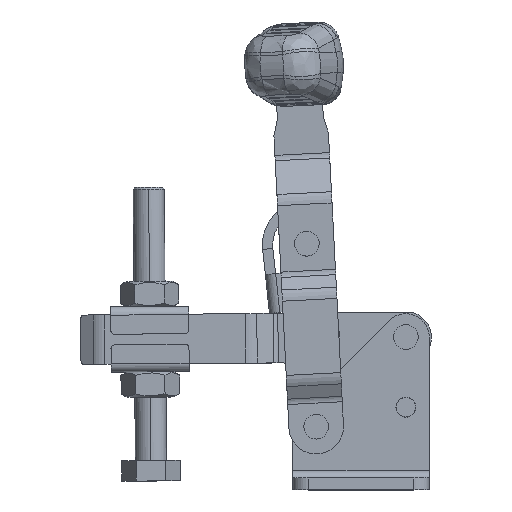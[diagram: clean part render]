
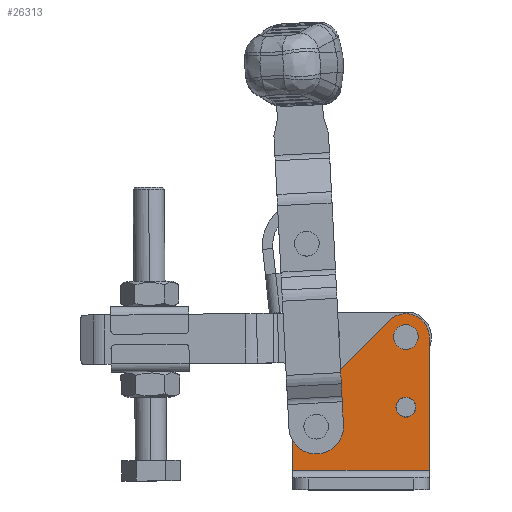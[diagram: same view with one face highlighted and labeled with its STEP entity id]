
A CAD part, top view. The second image highlights one B-rep face of the part: STEP entity #26313.
In plain terms, the highlighted planar face has unit normal (0, 0, 1).
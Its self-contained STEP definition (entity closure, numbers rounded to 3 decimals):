
#26 = DIRECTION ( 'NONE',  ( -1., 0., 0. ) ) ;
#163 = CARTESIAN_POINT ( 'NONE',  ( 6., 16.925, 16.425 ) ) ;
#291 = EDGE_CURVE ( 'NONE', #19387, #25722, #16542, .T. ) ;
#493 = LINE ( 'NONE', #20456, #22916 ) ;
#520 = EDGE_LOOP ( 'NONE', ( #37411, #10123 ) ) ;
#958 = AXIS2_PLACEMENT_3D ( 'NONE', #31888, #14349, #34835 ) ;
#1162 = CARTESIAN_POINT ( 'NONE',  ( 29., 37.525, 16.425 ) ) ;
#1423 = EDGE_CURVE ( 'NONE', #19967, #20578, #493, .T. ) ;
#2158 = EDGE_CURVE ( 'NONE', #33605, #4039, #29723, .T. ) ;
#2857 = AXIS2_PLACEMENT_3D ( 'NONE', #163, #20596, #3115 ) ;
#2858 = DIRECTION ( 'NONE',  ( 0., 0., 1. ) ) ;
#2863 = EDGE_LOOP ( 'NONE', ( #23264, #19841 ) ) ;
#3115 = DIRECTION ( 'NONE',  ( 0., -1., 0. ) ) ;
#3159 = PLANE ( 'NONE',  #4642 ) ;
#3209 = VERTEX_POINT ( 'NONE', #21323 ) ;
#3687 = CIRCLE ( 'NONE', #30517, 2.55 ) ;
#4039 = VERTEX_POINT ( 'NONE', #9196 ) ;
#4536 = AXIS2_PLACEMENT_3D ( 'NONE', #10311, #30780, #13262 ) ;
#4642 = AXIS2_PLACEMENT_3D ( 'NONE', #26538, #29469, #11946 ) ;
#4880 = ORIENTED_EDGE ( 'NONE', *, *, #6359, .F. ) ;
#5681 = EDGE_CURVE ( 'NONE', #4039, #20578, #21360, .T. ) ;
#5820 = VECTOR ( 'NONE', #10050, 1000. ) ;
#6359 = EDGE_CURVE ( 'NONE', #23827, #16759, #8505, .T. ) ;
#7026 = EDGE_CURVE ( 'NONE', #11297, #9635, #16249, .T. ) ;
#7887 = CARTESIAN_POINT ( 'NONE',  ( 35., 5.749, 16.425 ) ) ;
#8458 = DIRECTION ( 'NONE',  ( -0.707, -0.707, 0. ) ) ;
#8505 = CIRCLE ( 'NONE', #4536, 2.55 ) ;
#8846 = EDGE_CURVE ( 'NONE', #25722, #19387, #36287, .T. ) ;
#9196 = CARTESIAN_POINT ( 'NONE',  ( 0., 19.425, 16.425 ) ) ;
#9635 = VERTEX_POINT ( 'NONE', #23642 ) ;
#9653 = DIRECTION ( 'NONE',  ( 0., 0., 1. ) ) ;
#9932 = DIRECTION ( 'NONE',  ( 0., 0., 1. ) ) ;
#10050 = DIRECTION ( 'NONE',  ( 0., -1., 0. ) ) ;
#10123 = ORIENTED_EDGE ( 'NONE', *, *, #7026, .F. ) ;
#10311 = CARTESIAN_POINT ( 'NONE',  ( 29., 21.925, 16.425 ) ) ;
#11297 = VERTEX_POINT ( 'NONE', #29350 ) ;
#11946 = DIRECTION ( 'NONE',  ( 0., -1., 0. ) ) ;
#13060 = CIRCLE ( 'NONE', #14250, 2.4 ) ;
#13147 = EDGE_LOOP ( 'NONE', ( #14109, #19266, #23021, #13223, #14416 ) ) ;
#13223 = ORIENTED_EDGE ( 'NONE', *, *, #2158, .T. ) ;
#13262 = DIRECTION ( 'NONE',  ( 0., -1., 0. ) ) ;
#13841 = CARTESIAN_POINT ( 'NONE',  ( 29., 24.475, 16.425 ) ) ;
#14109 = ORIENTED_EDGE ( 'NONE', *, *, #1423, .F. ) ;
#14250 = AXIS2_PLACEMENT_3D ( 'NONE', #20358, #2858, #23335 ) ;
#14349 = DIRECTION ( 'NONE',  ( 0., 0., 1. ) ) ;
#14416 = ORIENTED_EDGE ( 'NONE', *, *, #5681, .T. ) ;
#14456 = FACE_BOUND ( 'NONE', #21471, .T. ) ;
#15086 = VECTOR ( 'NONE', #8458, 1000. ) ;
#15143 = CARTESIAN_POINT ( 'NONE',  ( 29., 21.925, 16.425 ) ) ;
#16249 = CIRCLE ( 'NONE', #2857, 2.4 ) ;
#16542 = CIRCLE ( 'NONE', #29764, 2.4 ) ;
#16759 = VERTEX_POINT ( 'NONE', #13841 ) ;
#17748 = EDGE_CURVE ( 'NONE', #3209, #33605, #23486, .T. ) ;
#18048 = DIRECTION ( 'NONE',  ( 0., -1., 0. ) ) ;
#19266 = ORIENTED_EDGE ( 'NONE', *, *, #24512, .T. ) ;
#19387 = VERTEX_POINT ( 'NONE', #1162 ) ;
#19841 = ORIENTED_EDGE ( 'NONE', *, *, #8846, .F. ) ;
#19967 = VERTEX_POINT ( 'NONE', #7887 ) ;
#20358 = CARTESIAN_POINT ( 'NONE',  ( 6., 16.925, 16.425 ) ) ;
#20385 = CARTESIAN_POINT ( 'NONE',  ( 35., -12.075, 16.425 ) ) ;
#20456 = CARTESIAN_POINT ( 'NONE',  ( 29., 5.749, 16.425 ) ) ;
#20578 = VERTEX_POINT ( 'NONE', #26634 ) ;
#20596 = DIRECTION ( 'NONE',  ( 0., 0., 1. ) ) ;
#20629 = AXIS2_PLACEMENT_3D ( 'NONE', #27441, #9932, #30382 ) ;
#21323 = CARTESIAN_POINT ( 'NONE',  ( 35., 39.925, 16.425 ) ) ;
#21360 = LINE ( 'NONE', #21674, #5820 ) ;
#21471 = EDGE_LOOP ( 'NONE', ( #4880, #30461 ) ) ;
#21674 = CARTESIAN_POINT ( 'NONE',  ( 0., -12.075, 16.425 ) ) ;
#22642 = EDGE_CURVE ( 'NONE', #16759, #23827, #3687, .T. ) ;
#22669 = CARTESIAN_POINT ( 'NONE',  ( 29., 19.375, 16.425 ) ) ;
#22820 = LINE ( 'NONE', #20385, #37462 ) ;
#22916 = VECTOR ( 'NONE', #26, 1000. ) ;
#23021 = ORIENTED_EDGE ( 'NONE', *, *, #17748, .T. ) ;
#23170 = FACE_BOUND ( 'NONE', #520, .T. ) ;
#23264 = ORIENTED_EDGE ( 'NONE', *, *, #291, .F. ) ;
#23335 = DIRECTION ( 'NONE',  ( 0., -1., 0. ) ) ;
#23359 = DIRECTION ( 'NONE',  ( 0., 1., 0. ) ) ;
#23486 = CIRCLE ( 'NONE', #20629, 6. ) ;
#23642 = CARTESIAN_POINT ( 'NONE',  ( 6., 14.525, 16.425 ) ) ;
#23827 = VERTEX_POINT ( 'NONE', #22669 ) ;
#24512 = EDGE_CURVE ( 'NONE', #19967, #3209, #22820, .T. ) ;
#25722 = VERTEX_POINT ( 'NONE', #25838 ) ;
#25838 = CARTESIAN_POINT ( 'NONE',  ( 29., 42.325, 16.425 ) ) ;
#26313 = ADVANCED_FACE ( 'NONE', ( #31861, #30007, #23170, #14456 ), #3159, .T. ) ;
#26538 = CARTESIAN_POINT ( 'NONE',  ( 29., 39.925, 16.425 ) ) ;
#26634 = CARTESIAN_POINT ( 'NONE',  ( 0., 5.749, 16.425 ) ) ;
#26708 = EDGE_CURVE ( 'NONE', #9635, #11297, #13060, .T. ) ;
#27151 = CARTESIAN_POINT ( 'NONE',  ( 29., 39.925, 16.425 ) ) ;
#27441 = CARTESIAN_POINT ( 'NONE',  ( 29., 39.925, 16.425 ) ) ;
#29199 = CARTESIAN_POINT ( 'NONE',  ( 24.759, 44.169, 16.425 ) ) ;
#29350 = CARTESIAN_POINT ( 'NONE',  ( 6., 19.325, 16.425 ) ) ;
#29469 = DIRECTION ( 'NONE',  ( 0., 0., 1. ) ) ;
#29723 = LINE ( 'NONE', #37913, #15086 ) ;
#29764 = AXIS2_PLACEMENT_3D ( 'NONE', #27151, #9653, #30110 ) ;
#30007 = FACE_BOUND ( 'NONE', #2863, .T. ) ;
#30110 = DIRECTION ( 'NONE',  ( 0., -1., 0. ) ) ;
#30382 = DIRECTION ( 'NONE',  ( 0., -1., 0. ) ) ;
#30461 = ORIENTED_EDGE ( 'NONE', *, *, #22642, .F. ) ;
#30517 = AXIS2_PLACEMENT_3D ( 'NONE', #15143, #35623, #18048 ) ;
#30780 = DIRECTION ( 'NONE',  ( 0., 0., 1. ) ) ;
#31861 = FACE_OUTER_BOUND ( 'NONE', #13147, .T. ) ;
#31888 = CARTESIAN_POINT ( 'NONE',  ( 29., 39.925, 16.425 ) ) ;
#33605 = VERTEX_POINT ( 'NONE', #29199 ) ;
#34835 = DIRECTION ( 'NONE',  ( 0., -1., 0. ) ) ;
#35623 = DIRECTION ( 'NONE',  ( 0., 0., 1. ) ) ;
#36287 = CIRCLE ( 'NONE', #958, 2.4 ) ;
#37411 = ORIENTED_EDGE ( 'NONE', *, *, #26708, .F. ) ;
#37462 = VECTOR ( 'NONE', #23359, 1000. ) ;
#37913 = CARTESIAN_POINT ( 'NONE',  ( 0., 19.425, 16.425 ) ) ;
